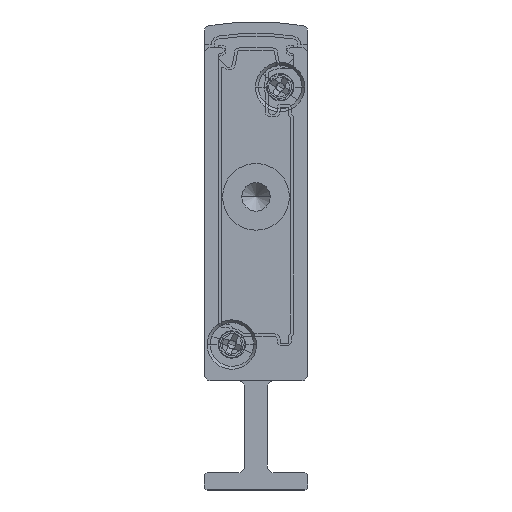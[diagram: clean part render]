
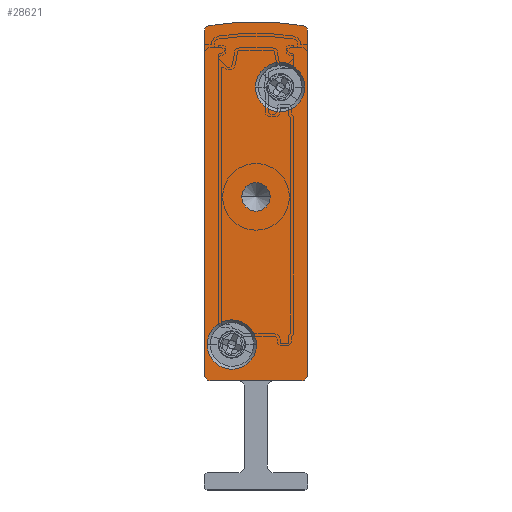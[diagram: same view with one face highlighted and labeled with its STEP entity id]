
A CAD part, front view. The second image highlights one B-rep face of the part: STEP entity #28621.
In plain terms, the highlighted planar face has unit normal (0, -1, 0).
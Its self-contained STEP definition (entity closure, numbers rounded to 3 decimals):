
#21 = DIRECTION ( 'NONE',  ( 0., -1., 0. ) ) ;
#294 = LINE ( 'NONE', #33213, #26812 ) ;
#682 = AXIS2_PLACEMENT_3D ( 'NONE', #30446, #25385, #30556 ) ;
#689 = CIRCLE ( 'NONE', #5027, 1.25 ) ;
#1509 = DIRECTION ( 'NONE',  ( 1., 0., 0. ) ) ;
#1931 = DIRECTION ( 'NONE',  ( 0., 1., 0. ) ) ;
#2869 = EDGE_CURVE ( 'NONE', #5448, #14595, #4676, .T. ) ;
#3123 = DIRECTION ( 'NONE',  ( 0., 1., 0. ) ) ;
#3216 = EDGE_CURVE ( 'NONE', #23634, #8662, #33166, .T. ) ;
#3282 = CARTESIAN_POINT ( 'NONE',  ( 0.5, -2.5, 9.5 ) ) ;
#3518 = CARTESIAN_POINT ( 'NONE',  ( 0.5, -2.5, 39.902 ) ) ;
#3623 = DIRECTION ( 'NONE',  ( 1., 0., 0. ) ) ;
#3771 = AXIS2_PLACEMENT_3D ( 'NONE', #30923, #21, #28635 ) ;
#4105 = ORIENTED_EDGE ( 'NONE', *, *, #11773, .T. ) ;
#4410 = DIRECTION ( 'NONE',  ( -1., 0., 0. ) ) ;
#4442 = CARTESIAN_POINT ( 'NONE',  ( 8.75, -2.5, 35.05 ) ) ;
#4676 = CIRCLE ( 'NONE', #8326, 0.5 ) ;
#4701 = ORIENTED_EDGE ( 'NONE', *, *, #2869, .F. ) ;
#5027 = AXIS2_PLACEMENT_3D ( 'NONE', #24432, #13755, #8920 ) ;
#5448 = VERTEX_POINT ( 'NONE', #14414 ) ;
#5604 = VERTEX_POINT ( 'NONE', #4442 ) ;
#5659 = DIRECTION ( 'NONE',  ( -1., 0., 0. ) ) ;
#5720 = CIRCLE ( 'NONE', #3771, 2.15 ) ;
#6123 = AXIS2_PLACEMENT_3D ( 'NONE', #28547, #10564, #18424 ) ;
#6274 = AXIS2_PLACEMENT_3D ( 'NONE', #16514, #31669, #3623 ) ;
#6705 = FACE_BOUND ( 'NONE', #18832, .T. ) ;
#6843 = ORIENTED_EDGE ( 'NONE', *, *, #17478, .F. ) ;
#6920 = VECTOR ( 'NONE', #31239, 1000. ) ;
#6980 = VERTEX_POINT ( 'NONE', #26007 ) ;
#7092 = ORIENTED_EDGE ( 'NONE', *, *, #11193, .F. ) ;
#7173 = AXIS2_PLACEMENT_3D ( 'NONE', #25854, #10323, #28433 ) ;
#7319 = ORIENTED_EDGE ( 'NONE', *, *, #20249, .F. ) ;
#7451 = CARTESIAN_POINT ( 'NONE',  ( 0.5, -2.5, 9.5 ) ) ;
#8326 = AXIS2_PLACEMENT_3D ( 'NONE', #3518, #17085, #32462 ) ;
#8662 = VERTEX_POINT ( 'NONE', #16663 ) ;
#8770 = AXIS2_PLACEMENT_3D ( 'NONE', #13295, #3123, #5659 ) ;
#8865 = ORIENTED_EDGE ( 'NONE', *, *, #8910, .F. ) ;
#8900 = EDGE_CURVE ( 'NONE', #31424, #5604, #5720, .T. ) ;
#8910 = EDGE_CURVE ( 'NONE', #6980, #17556, #9313, .T. ) ;
#8920 = DIRECTION ( 'NONE',  ( -1., 0., 0. ) ) ;
#9131 = FACE_BOUND ( 'NONE', #30650, .T. ) ;
#9313 = CIRCLE ( 'NONE', #7173, 2.15 ) ;
#9389 = CIRCLE ( 'NONE', #19733, 0.5 ) ;
#9560 = AXIS2_PLACEMENT_3D ( 'NONE', #12036, #1931, #4410 ) ;
#9689 = ORIENTED_EDGE ( 'NONE', *, *, #27893, .F. ) ;
#9846 = DIRECTION ( 'NONE',  ( 0., 1., 0. ) ) ;
#9900 = AXIS2_PLACEMENT_3D ( 'NONE', #14807, #9846, #30185 ) ;
#10323 = DIRECTION ( 'NONE',  ( 0., -1., 0. ) ) ;
#10564 = DIRECTION ( 'NONE',  ( 0., 1., 0. ) ) ;
#10723 = ORIENTED_EDGE ( 'NONE', *, *, #25646, .F. ) ;
#10884 = VERTEX_POINT ( 'NONE', #19362 ) ;
#11036 = EDGE_CURVE ( 'NONE', #21755, #13315, #22471, .T. ) ;
#11185 = CIRCLE ( 'NONE', #23300, 2.15 ) ;
#11193 = EDGE_CURVE ( 'NONE', #5604, #31424, #27672, .T. ) ;
#11773 = EDGE_CURVE ( 'NONE', #8662, #23634, #689, .T. ) ;
#12036 = CARTESIAN_POINT ( 'NONE',  ( 0.5, -2.5, 10. ) ) ;
#13295 = CARTESIAN_POINT ( 'NONE',  ( 4.5, -2.5, 25.5 ) ) ;
#13315 = VERTEX_POINT ( 'NONE', #3282 ) ;
#13755 = DIRECTION ( 'NONE',  ( 0., 1., 0. ) ) ;
#14016 = EDGE_LOOP ( 'NONE', ( #4105, #22893 ) ) ;
#14336 = EDGE_LOOP ( 'NONE', ( #4701, #27709, #32264, #31670, #10723, #7319, #9689, #15580 ) ) ;
#14414 = CARTESIAN_POINT ( 'NONE',  ( 0., -2.5, 39.902 ) ) ;
#14595 = VERTEX_POINT ( 'NONE', #22428 ) ;
#14807 = CARTESIAN_POINT ( 'NONE',  ( 0.5, -2.5, 39.902 ) ) ;
#15580 = ORIENTED_EDGE ( 'NONE', *, *, #16408, .F. ) ;
#16408 = EDGE_CURVE ( 'NONE', #14595, #27490, #24183, .T. ) ;
#16514 = CARTESIAN_POINT ( 'NONE',  ( 6.6, -2.5, 35.05 ) ) ;
#16663 = CARTESIAN_POINT ( 'NONE',  ( 3.25, -2.5, 25.5 ) ) ;
#17024 = CARTESIAN_POINT ( 'NONE',  ( 2.4, -2.5, 12.65 ) ) ;
#17085 = DIRECTION ( 'NONE',  ( 0., 1., 0. ) ) ;
#17478 = EDGE_CURVE ( 'NONE', #17556, #6980, #11185, .T. ) ;
#17556 = VERTEX_POINT ( 'NONE', #31047 ) ;
#17906 = DIRECTION ( 'NONE',  ( 0., 0., -1. ) ) ;
#18383 = FACE_OUTER_BOUND ( 'NONE', #14336, .T. ) ;
#18424 = DIRECTION ( 'NONE',  ( -1., 0., 0. ) ) ;
#18832 = EDGE_LOOP ( 'NONE', ( #7092, #32259 ) ) ;
#19362 = CARTESIAN_POINT ( 'NONE',  ( 9., -2.5, 10. ) ) ;
#19733 = AXIS2_PLACEMENT_3D ( 'NONE', #20020, #27685, #25197 ) ;
#19929 = DIRECTION ( 'NONE',  ( -1., 0., 0. ) ) ;
#20020 = CARTESIAN_POINT ( 'NONE',  ( 8.5, -2.5, 39.902 ) ) ;
#20021 = CARTESIAN_POINT ( 'NONE',  ( 8.5, -2.5, 9.5 ) ) ;
#20249 = EDGE_CURVE ( 'NONE', #24982, #10884, #294, .T. ) ;
#20472 = CARTESIAN_POINT ( 'NONE',  ( 9., -2.5, 39.902 ) ) ;
#20821 = CIRCLE ( 'NONE', #9560, 0.5 ) ;
#21755 = VERTEX_POINT ( 'NONE', #20021 ) ;
#22428 = CARTESIAN_POINT ( 'NONE',  ( 0.408, -2.5, 40.393 ) ) ;
#22471 = LINE ( 'NONE', #7451, #23263 ) ;
#22893 = ORIENTED_EDGE ( 'NONE', *, *, #3216, .T. ) ;
#23263 = VECTOR ( 'NONE', #19929, 1000. ) ;
#23300 = AXIS2_PLACEMENT_3D ( 'NONE', #17024, #24744, #1509 ) ;
#23590 = CARTESIAN_POINT ( 'NONE',  ( 0., -2.5, 39.902 ) ) ;
#23634 = VERTEX_POINT ( 'NONE', #27530 ) ;
#24050 = CARTESIAN_POINT ( 'NONE',  ( 4.45, -2.5, 35.05 ) ) ;
#24183 = CIRCLE ( 'NONE', #682, 23.658 ) ;
#24432 = CARTESIAN_POINT ( 'NONE',  ( 4.5, -2.5, 25.5 ) ) ;
#24744 = DIRECTION ( 'NONE',  ( 0., -1., 0. ) ) ;
#24982 = VERTEX_POINT ( 'NONE', #20472 ) ;
#25016 = LINE ( 'NONE', #23590, #6920 ) ;
#25197 = DIRECTION ( 'NONE',  ( -1., 0., 0. ) ) ;
#25385 = DIRECTION ( 'NONE',  ( 0., 1., 0. ) ) ;
#25646 = EDGE_CURVE ( 'NONE', #10884, #21755, #31840, .T. ) ;
#25659 = EDGE_CURVE ( 'NONE', #28378, #5448, #25016, .T. ) ;
#25854 = CARTESIAN_POINT ( 'NONE',  ( 2.4, -2.5, 12.65 ) ) ;
#25897 = CARTESIAN_POINT ( 'NONE',  ( 0., -2.5, 10. ) ) ;
#26007 = CARTESIAN_POINT ( 'NONE',  ( 4.55, -2.5, 12.65 ) ) ;
#26812 = VECTOR ( 'NONE', #17906, 1000. ) ;
#27490 = VERTEX_POINT ( 'NONE', #30099 ) ;
#27530 = CARTESIAN_POINT ( 'NONE',  ( 5.75, -2.5, 25.5 ) ) ;
#27672 = CIRCLE ( 'NONE', #6274, 2.15 ) ;
#27685 = DIRECTION ( 'NONE',  ( 0., 1., 0. ) ) ;
#27709 = ORIENTED_EDGE ( 'NONE', *, *, #25659, .F. ) ;
#27741 = PLANE ( 'NONE',  #9900 ) ;
#27893 = EDGE_CURVE ( 'NONE', #27490, #24982, #9389, .T. ) ;
#28378 = VERTEX_POINT ( 'NONE', #25897 ) ;
#28433 = DIRECTION ( 'NONE',  ( 1., 0., 0. ) ) ;
#28463 = FACE_BOUND ( 'NONE', #14016, .T. ) ;
#28547 = CARTESIAN_POINT ( 'NONE',  ( 8.5, -2.5, 10. ) ) ;
#28621 = ADVANCED_FACE ( 'NONE', ( #6705, #9131, #18383, #28463 ), #27741, .F. ) ;
#28635 = DIRECTION ( 'NONE',  ( 1., 0., 0. ) ) ;
#30099 = CARTESIAN_POINT ( 'NONE',  ( 8.592, -2.5, 40.393 ) ) ;
#30185 = DIRECTION ( 'NONE',  ( -1., 0., 0. ) ) ;
#30446 = CARTESIAN_POINT ( 'NONE',  ( 4.5, -2.5, 17.092 ) ) ;
#30556 = DIRECTION ( 'NONE',  ( -1., 0., 0. ) ) ;
#30650 = EDGE_LOOP ( 'NONE', ( #8865, #6843 ) ) ;
#30923 = CARTESIAN_POINT ( 'NONE',  ( 6.6, -2.5, 35.05 ) ) ;
#31047 = CARTESIAN_POINT ( 'NONE',  ( 0.25, -2.5, 12.65 ) ) ;
#31239 = DIRECTION ( 'NONE',  ( 0., 0., 1. ) ) ;
#31424 = VERTEX_POINT ( 'NONE', #24050 ) ;
#31669 = DIRECTION ( 'NONE',  ( 0., -1., 0. ) ) ;
#31670 = ORIENTED_EDGE ( 'NONE', *, *, #11036, .F. ) ;
#31840 = CIRCLE ( 'NONE', #6123, 0.5 ) ;
#32259 = ORIENTED_EDGE ( 'NONE', *, *, #8900, .F. ) ;
#32264 = ORIENTED_EDGE ( 'NONE', *, *, #32389, .F. ) ;
#32389 = EDGE_CURVE ( 'NONE', #13315, #28378, #20821, .T. ) ;
#32462 = DIRECTION ( 'NONE',  ( -1., 0., 0. ) ) ;
#33166 = CIRCLE ( 'NONE', #8770, 1.25 ) ;
#33213 = CARTESIAN_POINT ( 'NONE',  ( 9., -2.5, 39.902 ) ) ;
